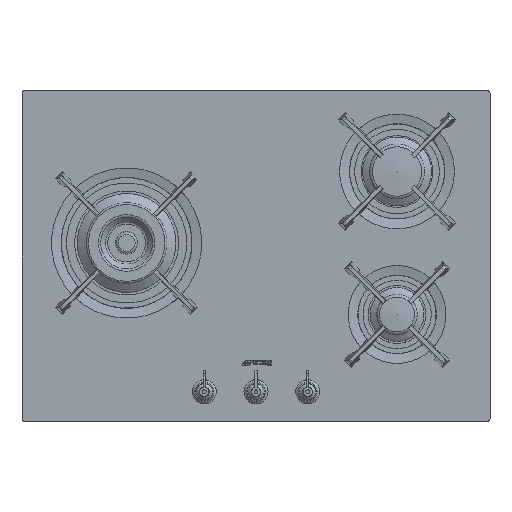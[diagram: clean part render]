
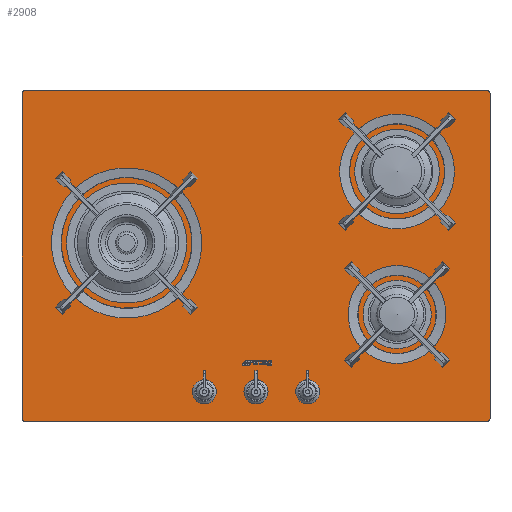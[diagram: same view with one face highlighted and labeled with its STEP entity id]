
A CAD part, top view. The second image highlights one B-rep face of the part: STEP entity #2908.
In plain terms, the highlighted planar face has unit normal (0, 0, 1).
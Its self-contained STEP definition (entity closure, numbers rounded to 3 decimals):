
#952=LINE('',#14417,#1703);
#958=LINE('',#14431,#1709);
#962=LINE('',#14440,#1713);
#966=LINE('',#14449,#1717);
#1703=VECTOR('',#11427,1.);
#1709=VECTOR('',#11435,1.);
#1713=VECTOR('',#11441,1.);
#1717=VECTOR('',#11447,1.);
#2405=FACE_BOUND('',#4265,.T.);
#2406=FACE_BOUND('',#4266,.T.);
#2407=FACE_BOUND('',#4267,.T.);
#2408=FACE_BOUND('',#4268,.T.);
#2409=FACE_BOUND('',#4269,.T.);
#2410=FACE_BOUND('',#4270,.T.);
#2411=FACE_BOUND('',#4271,.T.);
#2908=ADVANCED_FACE('',(#2405,#2406,#2407,#2408,#2409,#2410,#2411),#3262,
 .F.);
#3262=PLANE('',#9281);
#4265=EDGE_LOOP('',(#6336));
#4266=EDGE_LOOP('',(#6337));
#4267=EDGE_LOOP('',(#6338));
#4268=EDGE_LOOP('',(#6339));
#4269=EDGE_LOOP('',(#6340));
#4270=EDGE_LOOP('',(#6341));
#4271=EDGE_LOOP('',(#6342,#6343,#6344,#6345,#6346,#6347,#6348,#6349));
#6336=ORIENTED_EDGE('',*,*,#8305,.F.);
#6337=ORIENTED_EDGE('',*,*,#8306,.F.);
#6338=ORIENTED_EDGE('',*,*,#8307,.F.);
#6339=ORIENTED_EDGE('',*,*,#8308,.F.);
#6340=ORIENTED_EDGE('',*,*,#8309,.F.);
#6341=ORIENTED_EDGE('',*,*,#8310,.F.);
#6342=ORIENTED_EDGE('',*,*,#8295,.F.);
#6343=ORIENTED_EDGE('',*,*,#8311,.T.);
#6344=ORIENTED_EDGE('',*,*,#8289,.F.);
#6345=ORIENTED_EDGE('',*,*,#8312,.T.);
#6346=ORIENTED_EDGE('',*,*,#8303,.F.);
#6347=ORIENTED_EDGE('',*,*,#8313,.T.);
#6348=ORIENTED_EDGE('',*,*,#8299,.F.);
#6349=ORIENTED_EDGE('',*,*,#8314,.T.);
#7223=VERTEX_POINT('',#14418);
#7224=VERTEX_POINT('',#14419);
#7229=VERTEX_POINT('',#14430);
#7230=VERTEX_POINT('',#14432);
#7233=VERTEX_POINT('',#14439);
#7234=VERTEX_POINT('',#14441);
#7237=VERTEX_POINT('',#14448);
#7238=VERTEX_POINT('',#14450);
#7239=VERTEX_POINT('',#14454);
#7240=VERTEX_POINT('',#14456);
#7241=VERTEX_POINT('',#14458);
#7242=VERTEX_POINT('',#14460);
#7243=VERTEX_POINT('',#14462);
#7244=VERTEX_POINT('',#14464);
#8289=EDGE_CURVE('',#7223,#7224,#952,.T.);
#8295=EDGE_CURVE('',#7229,#7230,#958,.T.);
#8299=EDGE_CURVE('',#7233,#7234,#962,.T.);
#8303=EDGE_CURVE('',#7237,#7238,#966,.T.);
#8305=EDGE_CURVE('',#7239,#7239,#8544,.T.);
#8306=EDGE_CURVE('',#7240,#7240,#8545,.T.);
#8307=EDGE_CURVE('',#7241,#7241,#8546,.T.);
#8308=EDGE_CURVE('',#7242,#7242,#8547,.T.);
#8309=EDGE_CURVE('',#7243,#7243,#8548,.T.);
#8310=EDGE_CURVE('',#7244,#7244,#8549,.T.);
#8311=EDGE_CURVE('',#7229,#7224,#8550,.T.);
#8312=EDGE_CURVE('',#7223,#7238,#8551,.T.);
#8313=EDGE_CURVE('',#7237,#7234,#8552,.T.);
#8314=EDGE_CURVE('',#7233,#7230,#8553,.T.);
#8544=CIRCLE('',#9271,12.5);
#8545=CIRCLE('',#9272,12.5);
#8546=CIRCLE('',#9273,12.5);
#8547=CIRCLE('',#9274,85.);
#8548=CIRCLE('',#9275,55.);
#8549=CIRCLE('',#9276,42.5);
#8550=CIRCLE('',#9277,5.);
#8551=CIRCLE('',#9278,5.);
#8552=CIRCLE('',#9279,5.);
#8553=CIRCLE('',#9280,5.);
#9271=AXIS2_PLACEMENT_3D('',#14453,#11451,#11452);
#9272=AXIS2_PLACEMENT_3D('',#14455,#11453,#11454);
#9273=AXIS2_PLACEMENT_3D('',#14457,#11455,#11456);
#9274=AXIS2_PLACEMENT_3D('',#14459,#11457,#11458);
#9275=AXIS2_PLACEMENT_3D('',#14461,#11459,#11460);
#9276=AXIS2_PLACEMENT_3D('',#14463,#11461,#11462);
#9277=AXIS2_PLACEMENT_3D('',#14465,#11463,#11464);
#9278=AXIS2_PLACEMENT_3D('',#14466,#11465,#11466);
#9279=AXIS2_PLACEMENT_3D('',#14467,#11467,#11468);
#9280=AXIS2_PLACEMENT_3D('',#14468,#11469,#11470);
#9281=AXIS2_PLACEMENT_3D('',#14469,#11471,#11472);
#11427=DIRECTION('',(-1.,0.,0.));
#11435=DIRECTION('',(0.,1.,0.));
#11441=DIRECTION('',(1.,0.,0.));
#11447=DIRECTION('',(0.,-1.,0.));
#11451=DIRECTION('',(0.,0.,1.));
#11452=DIRECTION('',(1.,0.,0.));
#11453=DIRECTION('',(0.,0.,1.));
#11454=DIRECTION('',(1.,0.,0.));
#11455=DIRECTION('',(0.,0.,1.));
#11456=DIRECTION('',(1.,0.,0.));
#11457=DIRECTION('',(0.,0.,1.));
#11458=DIRECTION('',(1.,0.,0.));
#11459=DIRECTION('',(0.,0.,1.));
#11460=DIRECTION('',(1.,0.,0.));
#11461=DIRECTION('',(0.,0.,1.));
#11462=DIRECTION('',(1.,0.,0.));
#11463=DIRECTION('',(0.,0.,1.));
#11464=DIRECTION('',(-1.,0.,0.));
#11465=DIRECTION('',(0.,0.,1.));
#11466=DIRECTION('',(-1.,0.,0.));
#11467=DIRECTION('',(0.,0.,1.));
#11468=DIRECTION('',(-1.,0.,0.));
#11469=DIRECTION('',(0.,0.,1.));
#11470=DIRECTION('',(-1.,0.,0.));
#11471=DIRECTION('',(0.,0.,-1.));
#11472=DIRECTION('',(-1.,0.,0.));
#14417=CARTESIAN_POINT('',(360.,-255.,5.));
#14418=CARTESIAN_POINT('',(355.,-255.,5.));
#14419=CARTESIAN_POINT('',(-355.,-255.,5.));
#14430=CARTESIAN_POINT('',(-360.,-250.,5.));
#14431=CARTESIAN_POINT('',(-360.,-255.,5.));
#14432=CARTESIAN_POINT('',(-360.,250.,5.));
#14439=CARTESIAN_POINT('',(-355.,255.,5.));
#14440=CARTESIAN_POINT('',(-360.,255.,5.));
#14441=CARTESIAN_POINT('',(355.,255.,5.));
#14448=CARTESIAN_POINT('',(360.,250.,5.));
#14449=CARTESIAN_POINT('',(360.,255.,5.));
#14450=CARTESIAN_POINT('',(360.,-250.,5.));
#14453=CARTESIAN_POINT('',(79.5,-209.,5.));
#14454=CARTESIAN_POINT('',(92.,-209.,5.));
#14455=CARTESIAN_POINT('',(0.,-209.,5.));
#14456=CARTESIAN_POINT('',(12.5,-209.,5.));
#14457=CARTESIAN_POINT('',(-79.5,-209.,5.));
#14458=CARTESIAN_POINT('',(-67.,-209.,5.));
#14459=CARTESIAN_POINT('',(-199.,20.,5.));
#14460=CARTESIAN_POINT('',(-114.,20.,5.));
#14461=CARTESIAN_POINT('',(217.,130.,5.));
#14462=CARTESIAN_POINT('',(272.,130.,5.));
#14463=CARTESIAN_POINT('',(217.,-90.,5.));
#14464=CARTESIAN_POINT('',(259.5,-90.,5.));
#14465=CARTESIAN_POINT('',(-355.,-250.,5.));
#14466=CARTESIAN_POINT('',(355.,-250.,5.));
#14467=CARTESIAN_POINT('',(355.,250.,5.));
#14468=CARTESIAN_POINT('',(-355.,250.,5.));
#14469=CARTESIAN_POINT('',(0.,0.,5.));
